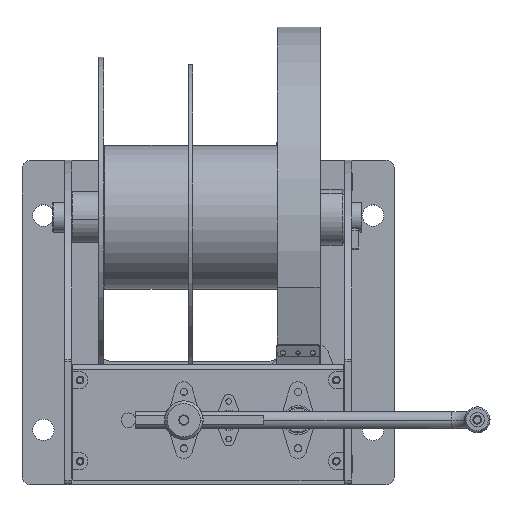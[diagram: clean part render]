
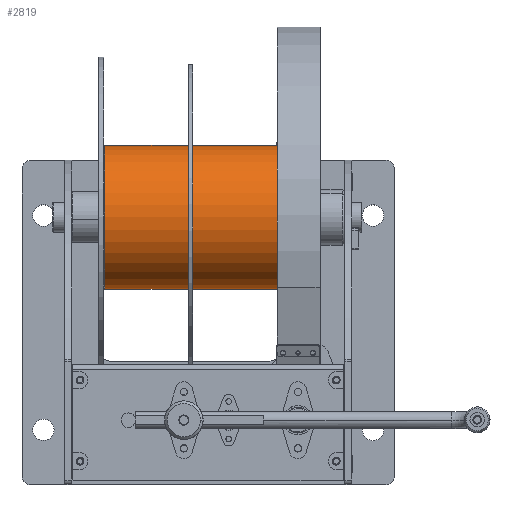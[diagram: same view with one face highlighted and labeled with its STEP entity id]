
A CAD part, top view. The second image highlights one B-rep face of the part: STEP entity #2819.
In plain terms, the highlighted cylindrical face has radius 84.15 mm (diameter 168.3 mm), a partial arc.
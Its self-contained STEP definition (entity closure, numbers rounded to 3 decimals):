
#623 = CIRCLE ( 'NONE', #60959, 84.15 ) ;
#2819 = ADVANCED_FACE ( 'NONE', ( #20208 ), #49621, .T. ) ;
#3355 = CARTESIAN_POINT ( 'NONE',  ( -84.15, 0., -111. ) ) ;
#4240 = ORIENTED_EDGE ( 'NONE', *, *, #31532, .T. ) ;
#5689 = VERTEX_POINT ( 'NONE', #35046 ) ;
#7270 = VERTEX_POINT ( 'NONE', #3355 ) ;
#10457 = EDGE_CURVE ( 'NONE', #48442, #14264, #13165, .T. ) ;
#10971 = EDGE_LOOP ( 'NONE', ( #59706, #69114, #4240, #27857 ) ) ;
#12532 = DIRECTION ( 'NONE',  ( 0., 0., -1. ) ) ;
#13165 = LINE ( 'NONE', #23459, #73721 ) ;
#13404 = DIRECTION ( 'NONE',  ( 0., 0., -1. ) ) ;
#14264 = VERTEX_POINT ( 'NONE', #72073 ) ;
#19493 = CIRCLE ( 'NONE', #21367, 84.15 ) ;
#20208 = FACE_OUTER_BOUND ( 'NONE', #10971, .T. ) ;
#20579 = DIRECTION ( 'NONE',  ( 0., 0., -1. ) ) ;
#21367 = AXIS2_PLACEMENT_3D ( 'NONE', #25478, #66493, #31354 ) ;
#23459 = CARTESIAN_POINT ( 'NONE',  ( 84.15, 0., 112. ) ) ;
#25478 = CARTESIAN_POINT ( 'NONE',  ( 0., 0., -111. ) ) ;
#27857 = ORIENTED_EDGE ( 'NONE', *, *, #38402, .T. ) ;
#31354 = DIRECTION ( 'NONE',  ( 1., 0., 0. ) ) ;
#31532 = EDGE_CURVE ( 'NONE', #5689, #7270, #51304, .T. ) ;
#35046 = CARTESIAN_POINT ( 'NONE',  ( -84.15, 0., 111. ) ) ;
#38402 = EDGE_CURVE ( 'NONE', #7270, #14264, #19493, .T. ) ;
#40802 = CARTESIAN_POINT ( 'NONE',  ( 84.15, 0., 111. ) ) ;
#42639 = DIRECTION ( 'NONE',  ( -1., 0., 0. ) ) ;
#47690 = CARTESIAN_POINT ( 'NONE',  ( -84.15, 0., 112. ) ) ;
#48442 = VERTEX_POINT ( 'NONE', #40802 ) ;
#48561 = CARTESIAN_POINT ( 'NONE',  ( 0., 0., 112. ) ) ;
#49621 = CYLINDRICAL_SURFACE ( 'NONE', #51282, 84.15 ) ;
#51282 = AXIS2_PLACEMENT_3D ( 'NONE', #48561, #13404, #42639 ) ;
#51304 = LINE ( 'NONE', #47690, #66847 ) ;
#55772 = CARTESIAN_POINT ( 'NONE',  ( 0., 0., 111. ) ) ;
#58920 = DIRECTION ( 'NONE',  ( 0., 0., -1. ) ) ;
#59706 = ORIENTED_EDGE ( 'NONE', *, *, #10457, .F. ) ;
#60959 = AXIS2_PLACEMENT_3D ( 'NONE', #55772, #20579, #61632 ) ;
#61632 = DIRECTION ( 'NONE',  ( 1., 0., 0. ) ) ;
#62043 = EDGE_CURVE ( 'NONE', #48442, #5689, #623, .T. ) ;
#66493 = DIRECTION ( 'NONE',  ( 0., 0., 1. ) ) ;
#66847 = VECTOR ( 'NONE', #12532, 1000. ) ;
#69114 = ORIENTED_EDGE ( 'NONE', *, *, #62043, .T. ) ;
#72073 = CARTESIAN_POINT ( 'NONE',  ( 84.15, 0., -111. ) ) ;
#73721 = VECTOR ( 'NONE', #58920, 1000. ) ;
